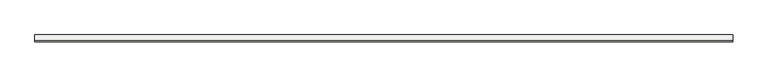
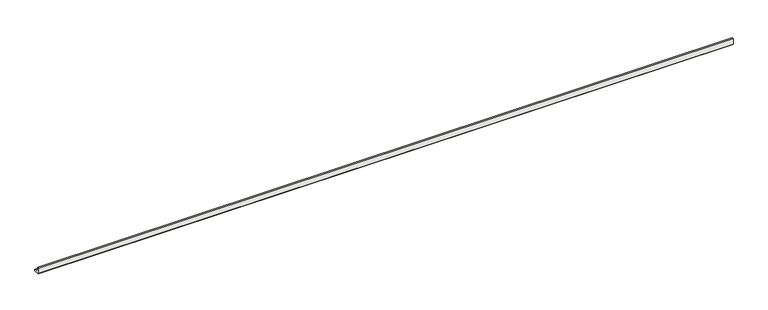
"""IFC4 building model written with IfcOpenShell, lengths in millimetres: slab geometry, ROSA GRES_188 : Pieza 188_Pietro_White_Anti-Slip."""

import ifcopenshell
import ifcopenshell.guid

model = None  # the IFC model being written
_history = None  # IfcOwnerHistory: only IFC2X3 demands one
_inside = {}  # id of a spatial element -> (the spatial element, [elements in it])
_under = {}  # id of a project, library or spatial element -> (it, [spatial elements below it])
_declared = {}  # id of a project -> (the project, [libraries it declares])
_typed = {}  # id of a type object -> (the type object, [elements of that type])
_made_of = {}  # id of a material, layer set ... -> (it, [elements and type objects made of it])


def new_model(schema):
    """Start an empty IFC model of exactly this schema.

    Asked for "IFC4X3", IfcOpenShell would pick the latest addendum, in which some entities
    have other attributes; the version numbers below select the first issue.
    IFC2X3 requires an IfcOwnerHistory on every rooted entity: one is made here for all.
    """
    global model, _history
    if schema == "IFC4X3":
        model = ifcopenshell.file(schema_version=(4, 3, 0, 0))
    else:
        model = ifcopenshell.file(schema=schema)
    _inside.clear()
    _under.clear()
    _declared.clear()
    _typed.clear()
    _made_of.clear()
    _history = None
    if model.schema == "IFC2X3":
        org = make("IfcOrganization", Name="unknown")
        user = make(
            "IfcPersonAndOrganization",
            ThePerson=make("IfcPerson", FamilyName="unknown"),
            TheOrganization=org,
        )
        app = make(
            "IfcApplication",
            ApplicationDeveloper=org,
            Version="unknown",
            ApplicationFullName="unknown",
            ApplicationIdentifier="unknown",
        )
        _history = make(
            "IfcOwnerHistory",
            OwningUser=user,
            OwningApplication=app,
            ChangeAction="ADDED",
            CreationDate=0,
        )
    return model


def make(cls, **values):
    """One entity of the class cls with the attributes given. An attribute that is None is left unset."""
    return model.create_entity(
        cls, **{name: value for name, value in values.items() if value is not None}
    )


def rooted(cls, **values):
    """An entity with a GlobalId (a new one), such as an element, a storey or a relation."""
    return make(cls, GlobalId=ifcopenshell.guid.new(), OwnerHistory=_history, **values)


def si_unit(unit_type, name, prefix=None):
    """IfcSIUnit, for example si_unit("LENGTHUNIT", "METRE", prefix="MILLI")."""
    return make("IfcSIUnit", UnitType=unit_type, Prefix=prefix, Name=name)


def assignment(units):
    """IfcUnitAssignment: the units of a project."""
    return None if units is None else make("IfcUnitAssignment", Units=units)


def point(xyz):
    """IfcCartesianPoint."""
    return None if xyz is None else make("IfcCartesianPoint", Coordinates=xyz)


def direction(xyz):
    """IfcDirection."""
    return None if xyz is None else make("IfcDirection", DirectionRatios=xyz)


def frame(location, z_axis=None, x_axis=None):
    """IfcAxis2Placement3D, a coordinate frame: its origin and axes. An axis left out is left unset."""
    return make(
        "IfcAxis2Placement3D",
        Location=point(location),
        Axis=direction(z_axis),
        RefDirection=direction(x_axis),
    )


def frame_2d(location, x_axis=None):
    """IfcAxis2Placement2D, a coordinate frame in the plane: its origin and x axis."""
    return make(
        "IfcAxis2Placement2D", Location=point(location), RefDirection=direction(x_axis)
    )


def origin():
    """The frame at (0, 0, 0) with its axes left unset."""
    return frame((0.0, 0.0, 0.0))


def place(relative_to, where):
    """IfcLocalPlacement: puts the frame where relative to a parent placement (None: the world)."""
    return make(
        "IfcLocalPlacement", PlacementRelTo=relative_to, RelativePlacement=where
    )


def context(
    kind, dimensions, precision=None, world=None, true_north=None, identifier=None
):
    """IfcGeometricRepresentationContext, for example the 3D "Model" context."""
    return make(
        "IfcGeometricRepresentationContext",
        ContextIdentifier=identifier,
        ContextType=kind,
        CoordinateSpaceDimension=dimensions,
        Precision=precision,
        WorldCoordinateSystem=world,
        TrueNorth=true_north,
    )


def project(units=None, contexts=None):
    """IfcProject with its units and contexts."""
    return rooted(
        "IfcProject",
        Name="project",
        RepresentationContexts=contexts,
        UnitsInContext=assignment(units),
    )


def spatial(cls, under=None, at=None, **own):
    """A site, building, storey or space (cls), placed at a placement, below another one or the project."""
    s = rooted(cls, ObjectPlacement=at, **own)
    if under is not None:
        _under.setdefault(under.id(), (under, []))[1].append(s)
    return s


def polyline(points):
    """IfcPolyline through the points."""
    return make("IfcPolyline", Points=[point(p) for p in points])


def circle_curve(where, radius):
    """IfcCircle in the frame where."""
    return make("IfcCircle", Position=where, Radius=radius)


def trimmed(basis, trim1, trim2, sense, master):
    """IfcTrimmedCurve: the piece of a basis curve between two trims."""
    return make(
        "IfcTrimmedCurve",
        BasisCurve=basis,
        Trim1=trim1,
        Trim2=trim2,
        SenseAgreement=sense,
        MasterRepresentation=master,
    )


def segment(curve, same_sense, transition):
    """IfcCompositeCurveSegment."""
    return make(
        "IfcCompositeCurveSegment",
        Transition=transition,
        SameSense=same_sense,
        ParentCurve=curve,
    )


def composite_curve(segments, self_intersect=None):
    """IfcCompositeCurve: segments joined end to end."""
    return make("IfcCompositeCurve", Segments=segments, SelfIntersect=self_intersect)


def outline(outer, holes=None, kind="AREA"):
    """IfcArbitraryClosedProfileDef: a profile drawn as a closed curve; with holes, ...WithVoids."""
    if holes is None:
        return make("IfcArbitraryClosedProfileDef", ProfileType=kind, OuterCurve=outer)
    return make(
        "IfcArbitraryProfileDefWithVoids",
        ProfileType=kind,
        OuterCurve=outer,
        InnerCurves=holes,
    )


def extrude(swept, where, along, depth):
    """IfcExtrudedAreaSolid: the profile swept, set in the frame where, extruded along a direction by depth."""
    return make(
        "IfcExtrudedAreaSolid",
        SweptArea=swept,
        Position=where,
        ExtrudedDirection=direction(along),
        Depth=depth,
    )


def shape(context_of_items, identifier, shape_type, items):
    """IfcShapeRepresentation: the items that make up one representation, for example the "Body"."""
    return make(
        "IfcShapeRepresentation",
        ContextOfItems=context_of_items,
        RepresentationIdentifier=identifier,
        RepresentationType=shape_type,
        Items=items,
    )


def source(mapping_origin, context_of_items, identifier, shape_type, items):
    """IfcRepresentationMap: a shape defined once, which mapped items show again and again."""
    return make(
        "IfcRepresentationMap",
        MappingOrigin=mapping_origin,
        MappedRepresentation=shape(context_of_items, identifier, shape_type, items),
    )


def transform(
    local_origin,
    x_axis=None,
    y_axis=None,
    z_axis=None,
    scale=None,
    scale2=None,
    scale3=None,
    uniform=True,
):
    """IfcCartesianTransformationOperator3D, or its non-uniform kind. x_axis, y_axis, z_axis: its Axis1, 2, 3."""
    if uniform:
        return make(
            "IfcCartesianTransformationOperator3D",
            Axis1=direction(x_axis),
            Axis2=direction(y_axis),
            LocalOrigin=point(local_origin),
            Scale=scale,
            Axis3=direction(z_axis),
        )
    return make(
        "IfcCartesianTransformationOperator3DnonUniform",
        Axis1=direction(x_axis),
        Axis2=direction(y_axis),
        LocalOrigin=point(local_origin),
        Scale=scale,
        Axis3=direction(z_axis),
        Scale2=scale2,
        Scale3=scale3,
    )


def mapped(mapping_source, mapping_target):
    """IfcMappedItem: shows the shape of a source again, moved by a transform."""
    return make(
        "IfcMappedItem", MappingSource=mapping_source, MappingTarget=mapping_target
    )


def made_of(thing, what):
    """Note that an element or type object is made of a material, layer set ...; save() writes the relation."""
    if what is not None:
        _made_of.setdefault(what.id(), (what, []))[1].append(thing)
    return thing


def element(
    cls,
    number,
    at=None,
    inside=None,
    cuts=None,
    type_object=None,
    material=None,
    context=None,
    identifier="Body",
    shape_type=None,
    held_by="IfcProductDefinitionShape",
    body=None,
    shapes=None,
    **own,
):
    """One element of the class cls, such as IfcWall. Its Tag is "e" and its number.

    at: its placement. inside: the storey or other place that contains it. cuts: it is an
    opening in that element (IfcRelVoidsElement). A single representation is given by context,
    identifier, shape_type and body (its items); several are given by shapes. held_by: the class
    of the entity that holds the representations. save() writes the other relations.
    """
    e = rooted(cls, Tag="e%d" % number, ObjectPlacement=at, **own)
    if body is not None:
        shapes = [shape(context, identifier, shape_type, body)]
    if shapes is not None:
        e.Representation = make(held_by, Representations=shapes)
    if inside is not None:
        _inside.setdefault(inside.id(), (inside, []))[1].append(e)
    if cuts is not None:
        rooted(
            "IfcRelVoidsElement", RelatingBuildingElement=cuts, RelatedOpeningElement=e
        )
    if type_object is not None:
        _typed.setdefault(type_object.id(), (type_object, []))[1].append(e)
    return made_of(e, material)


def aggregate(whole, parts):
    """IfcRelAggregates: a whole, such as a stair, and the parts it consists of."""
    return rooted("IfcRelAggregates", RelatingObject=whole, RelatedObjects=parts)


def save(model, path):
    """Write the relations noted so far, then the file.

    IfcRelAggregates (storeys below a building ...), IfcRelContainedInSpatialStructure (elements
    in a storey), IfcRelDefinesByType, IfcRelAssociatesMaterial and IfcRelDeclares: one each for
    every whole, place, type object, material and project.
    """
    for whole, parts in _under.values():
        aggregate(whole, parts)
    for where, things in _inside.values():
        rooted(
            "IfcRelContainedInSpatialStructure",
            RelatedElements=things,
            RelatingStructure=where,
        )
    for kind, things in _typed.values():
        rooted("IfcRelDefinesByType", RelatedObjects=things, RelatingType=kind)
    for what, things in _made_of.values():
        rooted("IfcRelAssociatesMaterial", RelatedObjects=things, RelatingMaterial=what)
    for by, libraries in _declared.values():
        rooted("IfcRelDeclares", RelatingContext=by, RelatedDefinitions=libraries)
    model.write(path)


def slab_cbe32cec(model_context):
    return source(origin(), model_context, "Body", "SweptSolid", [
        extrude(outline(composite_curve([segment(polyline([(0.0, 8.7114978), (0.0, 40.0), (9.9734114, 40.0)]), True, "CONTINUOUS"), segment(trimmed(circle_curve(frame_2d((39.9955547, 39.9955547)), 30.0221435), [point((9.9734114, 40.0))], [point((40.0, 9.9734114))], True, "CARTESIAN"), True, "CONTINUOUS"), segment(polyline([(40.0, 9.9734114), (40.0, 0.0), (8.7114978, 0.0), (0.0, 8.7114978)]), True, "CONTINUOUS")], self_intersect=False)), frame((0.0, 0.0, 0.0), z_axis=(1.0, 0.0, 0.0), x_axis=(0.0, 1.0, 0.0)), (0.0, 0.0, 1.0), 4000.0),
    ])


if __name__ == "__main__":
    model = new_model("IFC4")
    model_context = context("Model", 3, world=origin())
    ifc_project = project(units=[si_unit("LENGTHUNIT", "METRE", prefix="MILLI")], contexts=[model_context])
    site = spatial("IfcSite", under=ifc_project)
    building = spatial("IfcBuilding", under=site)
    placement = place(None, origin())
    slab_shape = slab_cbe32cec(model_context)
    element("IfcSlab", 1, ObjectType="ROSA GRES_188 : Pieza 188_Pietro_White_Anti-Slip", at=placement, inside=building, context=model_context, shape_type="MappedRepresentation", body=[
        mapped(slab_shape, transform((0.0, 0.0, 0.0), x_axis=(1.0, 0.0, 0.0), y_axis=(0.0, 1.0, 0.0), z_axis=(0.0, 0.0, 1.0))),
    ])
    save(model, "model.ifc")
